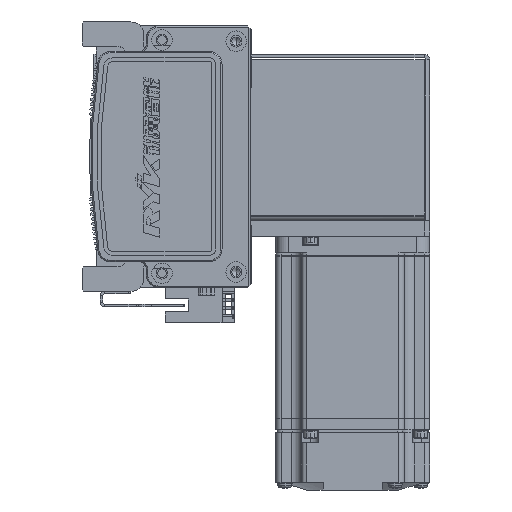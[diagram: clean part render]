
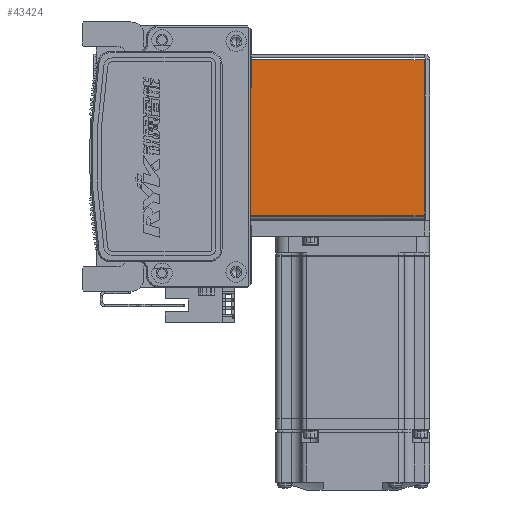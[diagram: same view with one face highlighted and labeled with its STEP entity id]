
A CAD part, left-side view. The second image highlights one B-rep face of the part: STEP entity #43424.
In plain terms, the highlighted planar face has unit normal (-1, 0, 0) as drawn and (0, 0, -1) by its records, which use the part's own axes.
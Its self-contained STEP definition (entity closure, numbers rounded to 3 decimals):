
#1888 = CARTESIAN_POINT ( 'NONE',  ( 0., 0., -35. ) ) ;
#1992 = CARTESIAN_POINT ( 'NONE',  ( -30.293, 0.737, -35. ) ) ;
#2450 = EDGE_CURVE ( 'NONE', #54024, #52359, #21028, .T. ) ;
#3126 = EDGE_CURVE ( 'NONE', #44539, #73456, #27651, .T. ) ;
#4022 = VECTOR ( 'NONE', #67958, 1000. ) ;
#6014 = CARTESIAN_POINT ( 'NONE',  ( 0., 72.5, -35. ) ) ;
#6259 = CARTESIAN_POINT ( 'NONE',  ( -30.293, 72.5, -35. ) ) ;
#7421 = DIRECTION ( 'NONE',  ( 0., -1., 0. ) ) ;
#7953 = DIRECTION ( 'NONE',  ( 0., 1., 0. ) ) ;
#14329 = ORIENTED_EDGE ( 'NONE', *, *, #16843, .T. ) ;
#14852 = CARTESIAN_POINT ( 'NONE',  ( 30.263, 0.737, -35. ) ) ;
#16843 = EDGE_CURVE ( 'NONE', #54024, #44539, #54191, .T. ) ;
#18160 = DIRECTION ( 'NONE',  ( 0., 0., 1. ) ) ;
#21028 = LINE ( 'NONE', #61437, #4022 ) ;
#26992 = LINE ( 'NONE', #39204, #61068 ) ;
#27651 = LINE ( 'NONE', #6014, #58975 ) ;
#28166 = CARTESIAN_POINT ( 'NONE',  ( 30.263, 72.5, -35. ) ) ;
#29722 = PLANE ( 'NONE',  #62299 ) ;
#30749 = CARTESIAN_POINT ( 'NONE',  ( -30.293, 0., -35. ) ) ;
#32581 = EDGE_LOOP ( 'NONE', ( #56704, #70116, #14329, #70482 ) ) ;
#37296 = FACE_OUTER_BOUND ( 'NONE', #32581, .T. ) ;
#39204 = CARTESIAN_POINT ( 'NONE',  ( 30.263, 72.5, -35. ) ) ;
#41624 = DIRECTION ( 'NONE',  ( 1., 0., 0. ) ) ;
#42791 = VECTOR ( 'NONE', #7953, 1000. ) ;
#43424 = ADVANCED_FACE ( 'NONE', ( #37296 ), #29722, .F. ) ;
#44539 = VERTEX_POINT ( 'NONE', #6259 ) ;
#52359 = VERTEX_POINT ( 'NONE', #14852 ) ;
#54024 = VERTEX_POINT ( 'NONE', #1992 ) ;
#54191 = LINE ( 'NONE', #30749, #42791 ) ;
#56704 = ORIENTED_EDGE ( 'NONE', *, *, #70660, .T. ) ;
#58975 = VECTOR ( 'NONE', #41624, 1000. ) ;
#61068 = VECTOR ( 'NONE', #73057, 1000. ) ;
#61437 = CARTESIAN_POINT ( 'NONE',  ( 32.5, 0.737, -35. ) ) ;
#62299 = AXIS2_PLACEMENT_3D ( 'NONE', #1888, #18160, #7421 ) ;
#67958 = DIRECTION ( 'NONE',  ( 1., 0., 0. ) ) ;
#70116 = ORIENTED_EDGE ( 'NONE', *, *, #2450, .F. ) ;
#70482 = ORIENTED_EDGE ( 'NONE', *, *, #3126, .T. ) ;
#70660 = EDGE_CURVE ( 'NONE', #73456, #52359, #26992, .T. ) ;
#73057 = DIRECTION ( 'NONE',  ( 0., -1., 0. ) ) ;
#73456 = VERTEX_POINT ( 'NONE', #28166 ) ;
